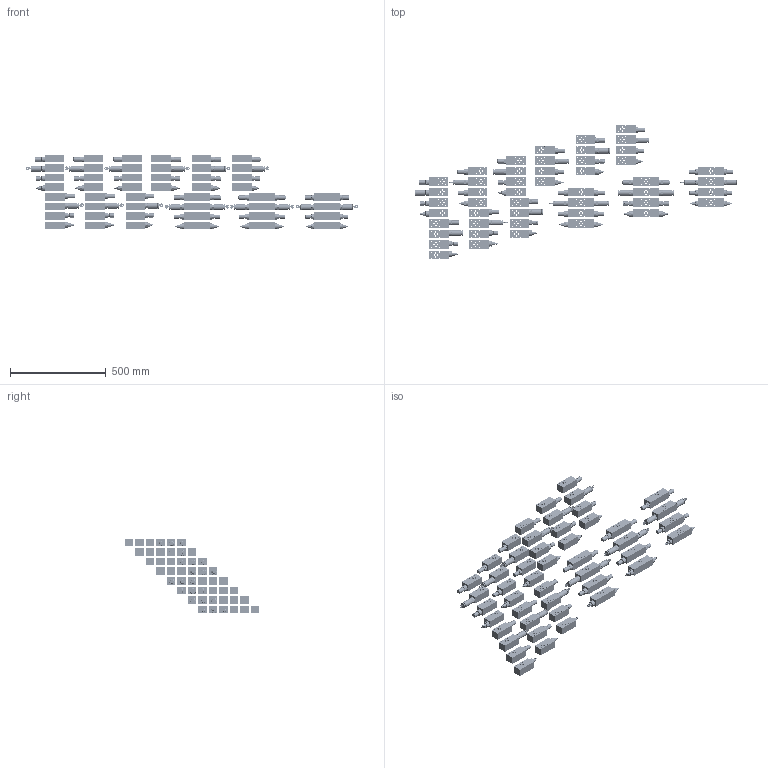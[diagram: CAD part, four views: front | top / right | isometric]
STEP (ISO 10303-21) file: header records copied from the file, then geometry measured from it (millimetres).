
FILE_DESCRIPTION(('Bauteilbeschreibung','HiCAD-Model','HiCAD-STEP-TRANSLATION','Bauteilbeschreibung'),'2;1');
FILE_NAME('C:/_EIGENE_DATEN/DXF_STEP/G_SA06_3808.STP','2008-09-18T10:13:19+00:00',('Konstrukteur'),('Konstrukteur Firma GmbH'),' HiCAD neXt 2007, Step 3.1.1212.3C ','HiCAD neXt 2007','confidential');
FILE_SCHEMA(('AUTOMOTIVE_DESIGN { 1 2 10303 214 0 1 1 1 }'));
Products named in the file (493): G_SA06_3808; GASSA06_T; A98A5D4E; FD7ABEF6; FD7ABEF60; DIN_76; F5336245; A73D00DA; A95604B6; SICHERUNGSSCHEIBE; SECHSKANTMUTTER; GADSA06_T; AF55F53A; FD7ABEF61; FD7ABEF62; DIN076; AB3010B1; A73D00DA0; A210EF9C; GAKSA06_T; A04E77B9; FD7ABEF63; FD7ABEF64; DIN0760; AA0FBBA6; A73D00DA1; CDB95981; GAASA06_T; FE2B01E1; FD7ABEF65; FD7ABEF66; DIN0761; A915DE08; A73D00DA2; A95604B60; SICHERUNGSSCHEIBE0; SECHSKANTMUTTER0; C457CC2F; GKSSA06_T; E3125649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
Assembly tree (492 placements, depth 6):
  G_SA06_3808
    GASSA06_T
      A98A5D4E
        FD7ABEF6
        FD7ABEF60
          DIN_76
        F5336245
          A73D00DA
          A95604B6
            SICHERUNGSSCHEIBE
            SECHSKANTMUTTER
    GADSA06_T
      AF55F53A
        FD7ABEF61
        FD7ABEF62
          DIN076
        AB3010B1
          A73D00DA0
          A210EF9C
    GAKSA06_T
      A04E77B9
        FD7ABEF63
        FD7ABEF64
          DIN0760
        AA0FBBA6
          A73D00DA1
          CDB95981
    GAASA06_T
      FE2B01E1
        FD7ABEF65
        FD7ABEF66
          DIN0761
        A915DE08
          A73D00DA2
          A95604B60
            SICHERUNGSSCHEIBE0
            SECHSKANTMUTTER0
          C457CC2F
    GKSSA06_T
      E3125649
        FD7ABEF67
        FD7ABEF68
          DIN0762
        F9FE5A25
          A95604B61
            SICHERUNGSSCHEIBE1
            SECHSKANTMUTTER1
          AA9803E8
    GKDSA06_T
      C1E8966E
        FD7ABEF69
        FD7ABEF610
          DIN0763
        A8DAF04E
          AA9803E80
          A210EF9C0
    GKKSA06_T
      A3D014A3
        FD7ABEF611
        FD7ABEF612
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Bounding box: 1737.81 x 705 x 390 mm (x, y, z)
Volume: 10508750 mm3; surface area: 2328656 mm2
Topology: 263 solids, 263 shells, 8761 faces, 20437 edges, 13322 vertices
Faces by surface type: cylinder 3396, plane 3235, cone 1675, torus 455
Full cylindrical faces by diameter (mm): 3 x495, 4 x45, 5 x75, 5.5 x192, 5.93 x120, 6 x15, 7.5 x192, 8 x120, 8.5 x15, 11 x40, 12.5 x192, 14.6 x60, 15.5 x80, 16.8 x20, 17 x90, 17.1 x60, 17.5 x195, 20 x40, 20.3 x60, 20.5 x120, 21 x15, 22 x175, 23 x15, 30 x90, 34 x12
Entity records: 457017 total; most frequent: CARTESIAN_POINT 271947, DIRECTION 38622, ORIENTED_EDGE 28770, AXIS2_PLACEMENT_3D 17332, EDGE_LOOP 15176, EDGE_CURVE 14385, VERTEX_POINT 11577, ADVANCED_FACE 8761
